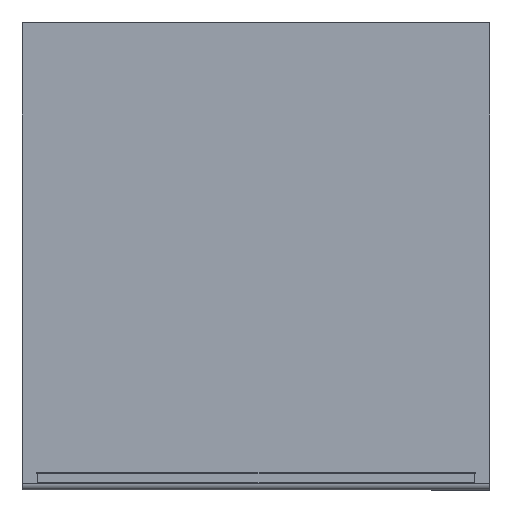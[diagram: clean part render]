
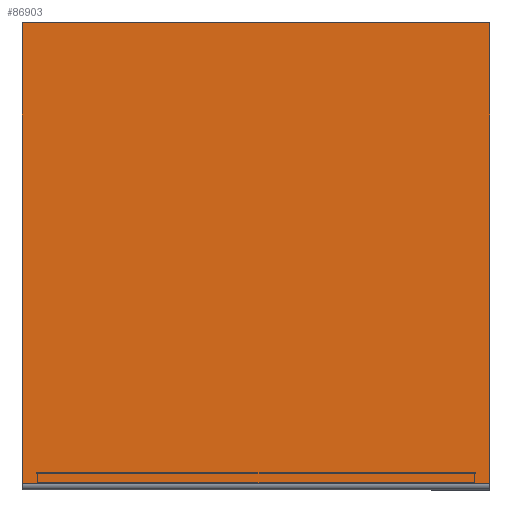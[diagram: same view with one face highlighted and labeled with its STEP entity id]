
A CAD part, top view. The second image highlights one B-rep face of the part: STEP entity #86903.
In plain terms, the highlighted planar face has unit normal (0, 0, 1).
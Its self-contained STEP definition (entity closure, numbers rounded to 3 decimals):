
#15474=ORIENTED_EDGE('',*,*,#37681,.F.);
#15475=ORIENTED_EDGE('',*,*,#37682,.T.);
#15476=ORIENTED_EDGE('',*,*,#37683,.T.);
#15477=ORIENTED_EDGE('',*,*,#37684,.T.);
#37681=EDGE_CURVE('',#49482,#49491,#58116,.T.);
#37682=EDGE_CURVE('',#49482,#49488,#58117,.T.);
#37683=EDGE_CURVE('',#49488,#49492,#58118,.T.);
#37684=EDGE_CURVE('',#49492,#49491,#58119,.T.);
#49482=VERTEX_POINT('',#128233);
#49488=VERTEX_POINT('',#128246);
#49491=VERTEX_POINT('',#128254);
#49492=VERTEX_POINT('',#128257);
#58116=LINE('',#128253,#65695);
#58117=LINE('',#128255,#65696);
#58118=LINE('',#128256,#65697);
#58119=LINE('',#128258,#65698);
#65695=VECTOR('',#105685,1000.);
#65696=VECTOR('',#105686,1000.);
#65697=VECTOR('',#105687,1000.);
#65698=VECTOR('',#105688,1000.);
#72889=EDGE_LOOP('',(#15474,#15475,#15476,#15477));
#79152=FACE_BOUND('',#72889,.T.);
#83922=PLANE('',#92985);
#86903=ADVANCED_FACE('',(#79152),#83922,.T.);
#92985=AXIS2_PLACEMENT_3D('',#128252,#105683,#105684);
#105683=DIRECTION('',(0.,0.,1.));
#105684=DIRECTION('',(0.,-1.,0.));
#105685=DIRECTION('',(1.,0.,0.));
#105686=DIRECTION('',(0.,-1.,0.));
#105687=DIRECTION('',(1.,0.,0.));
#105688=DIRECTION('',(0.,1.,0.));
#128233=CARTESIAN_POINT('',(-380.298,374.648,21.));
#128246=CARTESIAN_POINT('',(-380.298,-375.35,21.));
#128252=CARTESIAN_POINT('',(-381.,375.35,21.));
#128253=CARTESIAN_POINT('',(-381.,374.648,21.));
#128254=CARTESIAN_POINT('',(380.298,374.648,21.));
#128255=CARTESIAN_POINT('',(-380.298,374.648,21.));
#128256=CARTESIAN_POINT('',(-381.,-375.35,21.));
#128257=CARTESIAN_POINT('',(380.298,-375.35,21.));
#128258=CARTESIAN_POINT('',(380.298,-375.35,21.));
